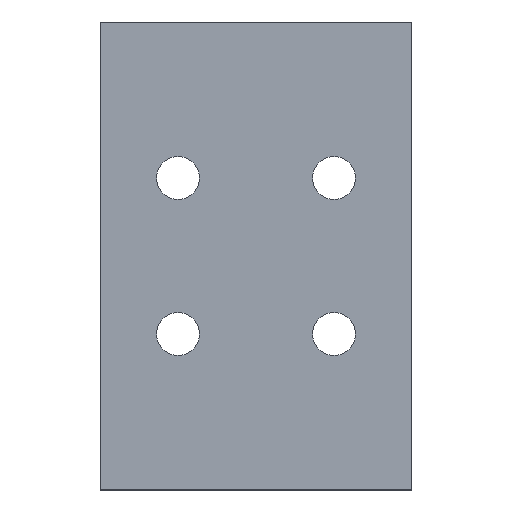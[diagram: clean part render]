
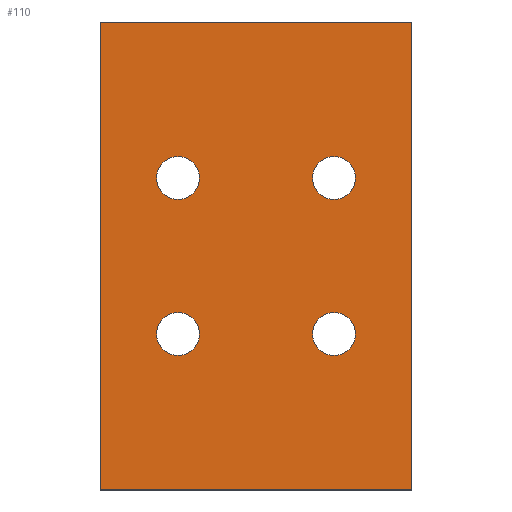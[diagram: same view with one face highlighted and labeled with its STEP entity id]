
A CAD part, top view. The second image highlights one B-rep face of the part: STEP entity #110.
In plain terms, the highlighted planar face has unit normal (0, 0, 1).
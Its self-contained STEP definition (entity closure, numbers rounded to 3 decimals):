
#1 = CARTESIAN_POINT ( 'NONE',  ( 10., 10., 10. ) ) ;
#2 = CARTESIAN_POINT ( 'NONE',  ( 30., 10., 10. ) ) ;
#8 = CARTESIAN_POINT ( 'NONE',  ( 10., -10., 10. ) ) ;
#10 = AXIS2_PLACEMENT_3D ( 'NONE', #91, #414, #476 ) ;
#30 = VERTEX_POINT ( 'NONE', #415 ) ;
#35 = DIRECTION ( 'NONE',  ( -1., 0., 0. ) ) ;
#36 = CARTESIAN_POINT ( 'NONE',  ( 40., 30., 10. ) ) ;
#39 = CARTESIAN_POINT ( 'NONE',  ( 7.25, -10., 10. ) ) ;
#41 = CIRCLE ( 'NONE', #124, 2.75 ) ;
#42 = DIRECTION ( 'NONE',  ( -1., 0., 0. ) ) ;
#43 = DIRECTION ( 'NONE',  ( 0., 0., -1. ) ) ;
#44 = CARTESIAN_POINT ( 'NONE',  ( 0., -30., 10. ) ) ;
#54 = ORIENTED_EDGE ( 'NONE', *, *, #217, .T. ) ;
#55 = CIRCLE ( 'NONE', #78, 2.75 ) ;
#60 = AXIS2_PLACEMENT_3D ( 'NONE', #2, #224, #385 ) ;
#63 = CARTESIAN_POINT ( 'NONE',  ( 0., 30., 10. ) ) ;
#65 = CARTESIAN_POINT ( 'NONE',  ( 32.75, 10., 10. ) ) ;
#74 = CARTESIAN_POINT ( 'NONE',  ( 10., 10., 10. ) ) ;
#78 = AXIS2_PLACEMENT_3D ( 'NONE', #402, #138, #344 ) ;
#79 = CARTESIAN_POINT ( 'NONE',  ( 30., -10., 10. ) ) ;
#84 = DIRECTION ( 'NONE',  ( 0., -1., 0. ) ) ;
#89 = AXIS2_PLACEMENT_3D ( 'NONE', #1, #365, #446 ) ;
#91 = CARTESIAN_POINT ( 'NONE',  ( 10., -10., 10. ) ) ;
#92 = EDGE_CURVE ( 'NONE', #30, #229, #498, .T. ) ;
#93 = EDGE_LOOP ( 'NONE', ( #336, #54 ) ) ;
#96 = AXIS2_PLACEMENT_3D ( 'NONE', #79, #43, #42 ) ;
#110 = ADVANCED_FACE ( 'NONE', ( #173, #272, #308, #234, #351 ), #472, .T. ) ;
#113 = EDGE_LOOP ( 'NONE', ( #278, #382 ) ) ;
#119 = EDGE_LOOP ( 'NONE', ( #439, #425 ) ) ;
#123 = ORIENTED_EDGE ( 'NONE', *, *, #381, .T. ) ;
#124 = AXIS2_PLACEMENT_3D ( 'NONE', #74, #411, #313 ) ;
#128 = AXIS2_PLACEMENT_3D ( 'NONE', #376, #290, #162 ) ;
#129 = CARTESIAN_POINT ( 'NONE',  ( 12.75, -10., 10. ) ) ;
#130 = AXIS2_PLACEMENT_3D ( 'NONE', #8, #388, #256 ) ;
#135 = CARTESIAN_POINT ( 'NONE',  ( 40., -30., 10. ) ) ;
#137 = DIRECTION ( 'NONE',  ( 0., 1., 0. ) ) ;
#138 = DIRECTION ( 'NONE',  ( 0., 0., -1. ) ) ;
#146 = ORIENTED_EDGE ( 'NONE', *, *, #320, .T. ) ;
#148 = VECTOR ( 'NONE', #84, 1000. ) ;
#153 = VERTEX_POINT ( 'NONE', #379 ) ;
#154 = VERTEX_POINT ( 'NONE', #170 ) ;
#162 = DIRECTION ( 'NONE',  ( -1., 0., 0. ) ) ;
#170 = CARTESIAN_POINT ( 'NONE',  ( 0., -30., 10. ) ) ;
#173 = FACE_BOUND ( 'NONE', #119, .T. ) ;
#185 = LINE ( 'NONE', #63, #235 ) ;
#187 = EDGE_CURVE ( 'NONE', #323, #153, #231, .T. ) ;
#190 = LINE ( 'NONE', #448, #431 ) ;
#191 = VERTEX_POINT ( 'NONE', #36 ) ;
#208 = CARTESIAN_POINT ( 'NONE',  ( 0., 0., 10. ) ) ;
#209 = EDGE_LOOP ( 'NONE', ( #294, #146 ) ) ;
#215 = ORIENTED_EDGE ( 'NONE', *, *, #447, .T. ) ;
#217 = EDGE_CURVE ( 'NONE', #300, #266, #443, .T. ) ;
#224 = DIRECTION ( 'NONE',  ( 0., 0., -1. ) ) ;
#226 = CARTESIAN_POINT ( 'NONE',  ( 32.75, -10., 10. ) ) ;
#227 = VERTEX_POINT ( 'NONE', #481 ) ;
#228 = LINE ( 'NONE', #492, #148 ) ;
#229 = VERTEX_POINT ( 'NONE', #65 ) ;
#231 = CIRCLE ( 'NONE', #128, 2.75 ) ;
#234 = FACE_BOUND ( 'NONE', #113, .T. ) ;
#235 = VECTOR ( 'NONE', #35, 1000. ) ;
#252 = AXIS2_PLACEMENT_3D ( 'NONE', #208, #407, #341 ) ;
#256 = DIRECTION ( 'NONE',  ( -1., 0., 0. ) ) ;
#265 = EDGE_CURVE ( 'NONE', #420, #227, #41, .T. ) ;
#266 = VERTEX_POINT ( 'NONE', #39 ) ;
#272 = FACE_BOUND ( 'NONE', #93, .T. ) ;
#278 = ORIENTED_EDGE ( 'NONE', *, *, #297, .T. ) ;
#279 = VERTEX_POINT ( 'NONE', #135 ) ;
#290 = DIRECTION ( 'NONE',  ( 0., 0., -1. ) ) ;
#292 = EDGE_CURVE ( 'NONE', #153, #323, #495, .T. ) ;
#293 = ORIENTED_EDGE ( 'NONE', *, *, #436, .T. ) ;
#294 = ORIENTED_EDGE ( 'NONE', *, *, #92, .T. ) ;
#296 = EDGE_LOOP ( 'NONE', ( #123, #435, #215, #293 ) ) ;
#297 = EDGE_CURVE ( 'NONE', #227, #420, #427, .T. ) ;
#300 = VERTEX_POINT ( 'NONE', #129 ) ;
#308 = FACE_BOUND ( 'NONE', #209, .T. ) ;
#313 = DIRECTION ( 'NONE',  ( -1., 0., 0. ) ) ;
#320 = EDGE_CURVE ( 'NONE', #229, #30, #55, .T. ) ;
#323 = VERTEX_POINT ( 'NONE', #226 ) ;
#329 = VECTOR ( 'NONE', #352, 1000. ) ;
#336 = ORIENTED_EDGE ( 'NONE', *, *, #424, .T. ) ;
#341 = DIRECTION ( 'NONE',  ( 1., 0., 0. ) ) ;
#344 = DIRECTION ( 'NONE',  ( -1., 0., 0. ) ) ;
#351 = FACE_OUTER_BOUND ( 'NONE', #296, .T. ) ;
#352 = DIRECTION ( 'NONE',  ( 1., 0., 0. ) ) ;
#365 = DIRECTION ( 'NONE',  ( 0., 0., -1. ) ) ;
#376 = CARTESIAN_POINT ( 'NONE',  ( 30., -10., 10. ) ) ;
#379 = CARTESIAN_POINT ( 'NONE',  ( 27.25, -10., 10. ) ) ;
#381 = EDGE_CURVE ( 'NONE', #279, #191, #190, .T. ) ;
#382 = ORIENTED_EDGE ( 'NONE', *, *, #265, .T. ) ;
#385 = DIRECTION ( 'NONE',  ( -1., 0., 0. ) ) ;
#388 = DIRECTION ( 'NONE',  ( 0., 0., -1. ) ) ;
#390 = EDGE_CURVE ( 'NONE', #191, #484, #185, .T. ) ;
#402 = CARTESIAN_POINT ( 'NONE',  ( 30., 10., 10. ) ) ;
#407 = DIRECTION ( 'NONE',  ( 0., 0., 1. ) ) ;
#411 = DIRECTION ( 'NONE',  ( 0., 0., -1. ) ) ;
#414 = DIRECTION ( 'NONE',  ( 0., 0., -1. ) ) ;
#415 = CARTESIAN_POINT ( 'NONE',  ( 27.25, 10., 10. ) ) ;
#420 = VERTEX_POINT ( 'NONE', #485 ) ;
#424 = EDGE_CURVE ( 'NONE', #266, #300, #454, .T. ) ;
#425 = ORIENTED_EDGE ( 'NONE', *, *, #187, .T. ) ;
#427 = CIRCLE ( 'NONE', #89, 2.75 ) ;
#431 = VECTOR ( 'NONE', #137, 1000. ) ;
#435 = ORIENTED_EDGE ( 'NONE', *, *, #390, .T. ) ;
#436 = EDGE_CURVE ( 'NONE', #154, #279, #480, .T. ) ;
#439 = ORIENTED_EDGE ( 'NONE', *, *, #292, .T. ) ;
#443 = CIRCLE ( 'NONE', #130, 2.75 ) ;
#446 = DIRECTION ( 'NONE',  ( -1., 0., 0. ) ) ;
#447 = EDGE_CURVE ( 'NONE', #484, #154, #228, .T. ) ;
#448 = CARTESIAN_POINT ( 'NONE',  ( 40., 0., 10. ) ) ;
#454 = CIRCLE ( 'NONE', #10, 2.75 ) ;
#456 = CARTESIAN_POINT ( 'NONE',  ( 0., 30., 10. ) ) ;
#472 = PLANE ( 'NONE',  #252 ) ;
#476 = DIRECTION ( 'NONE',  ( -1., 0., 0. ) ) ;
#480 = LINE ( 'NONE', #44, #329 ) ;
#481 = CARTESIAN_POINT ( 'NONE',  ( 7.25, 10., 10. ) ) ;
#484 = VERTEX_POINT ( 'NONE', #456 ) ;
#485 = CARTESIAN_POINT ( 'NONE',  ( 12.75, 10., 10. ) ) ;
#492 = CARTESIAN_POINT ( 'NONE',  ( 0., 0., 10. ) ) ;
#495 = CIRCLE ( 'NONE', #96, 2.75 ) ;
#498 = CIRCLE ( 'NONE', #60, 2.75 ) ;
